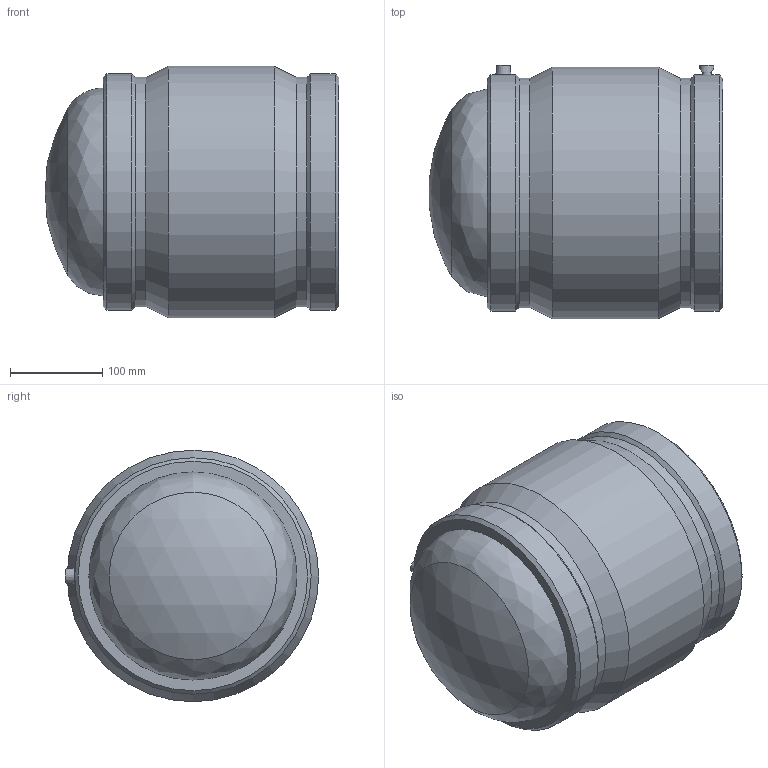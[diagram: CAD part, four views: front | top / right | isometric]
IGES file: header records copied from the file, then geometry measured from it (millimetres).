
Global section: file name: 491204225.ipt; native system: Autodesk Inventor 2015; preprocessor: unknown; author: KIM; date: 20171106.093801; units: millimetre
Bounding box: 317.29 x 274 x 272 mm (x, y, z)
Volume: 6499876.5 mm3; surface area: 514179.1 mm2
Topology: 2 solids, 3 shells, 40 faces, 84 edges, 58 vertices
Faces by surface type: plane 12, revolution 11, cylinder 8, cone 8, sphere 1
Full cylindrical faces by diameter (mm): 4 x2, 225 x1, 248.01 x2, 255.68 x2, 272 x1
